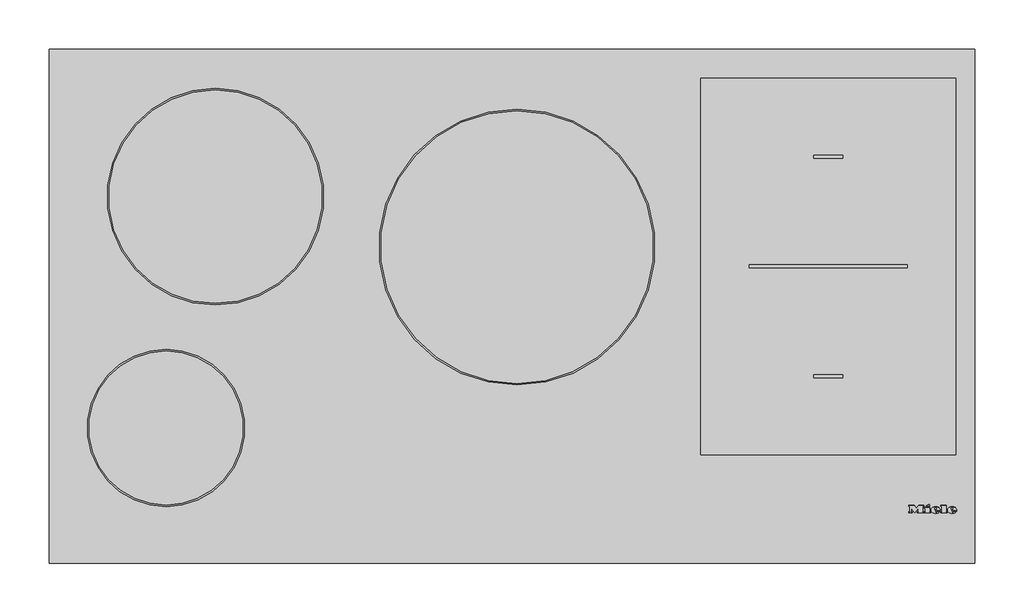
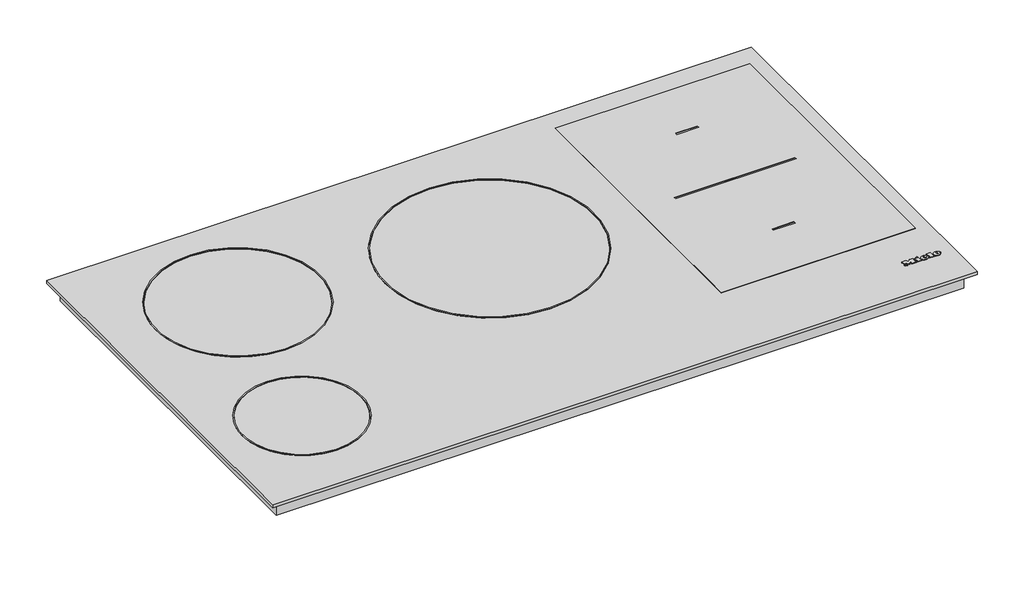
# Not in any storey: 1 proxy.
"""IFC4 building model written with IfcOpenShell, lengths in millimetres."""

import ifcopenshell
import ifcopenshell.guid

model = None  # the IFC model being written
_history = None  # IfcOwnerHistory: only IFC2X3 demands one
_inside = {}  # id of a spatial element -> (the spatial element, [elements in it])
_under = {}  # id of a project, library or spatial element -> (it, [spatial elements below it])
_declared = {}  # id of a project -> (the project, [libraries it declares])
_typed = {}  # id of a type object -> (the type object, [elements of that type])
_made_of = {}  # id of a material, layer set ... -> (it, [elements and type objects made of it])


def new_model(schema):
    """Start an empty IFC model of exactly this schema.

    Asked for "IFC4X3", IfcOpenShell would pick the latest addendum, in which some entities
    have other attributes; the version numbers below select the first issue.
    IFC2X3 requires an IfcOwnerHistory on every rooted entity: one is made here for all.
    """
    global model, _history
    if schema == "IFC4X3":
        model = ifcopenshell.file(schema_version=(4, 3, 0, 0))
    else:
        model = ifcopenshell.file(schema=schema)
    _inside.clear()
    _under.clear()
    _declared.clear()
    _typed.clear()
    _made_of.clear()
    _history = None
    if model.schema == "IFC2X3":
        org = make("IfcOrganization", Name="unknown")
        user = make(
            "IfcPersonAndOrganization",
            ThePerson=make("IfcPerson", FamilyName="unknown"),
            TheOrganization=org,
        )
        app = make(
            "IfcApplication",
            ApplicationDeveloper=org,
            Version="unknown",
            ApplicationFullName="unknown",
            ApplicationIdentifier="unknown",
        )
        _history = make(
            "IfcOwnerHistory",
            OwningUser=user,
            OwningApplication=app,
            ChangeAction="ADDED",
            CreationDate=0,
        )
    return model


def make(cls, **values):
    """One entity of the class cls with the attributes given. An attribute that is None is left unset."""
    return model.create_entity(
        cls, **{name: value for name, value in values.items() if value is not None}
    )


def rooted(cls, **values):
    """An entity with a GlobalId (a new one), such as an element, a storey or a relation."""
    return make(cls, GlobalId=ifcopenshell.guid.new(), OwnerHistory=_history, **values)


def si_unit(unit_type, name, prefix=None):
    """IfcSIUnit, for example si_unit("LENGTHUNIT", "METRE", prefix="MILLI")."""
    return make("IfcSIUnit", UnitType=unit_type, Prefix=prefix, Name=name)


def assignment(units):
    """IfcUnitAssignment: the units of a project."""
    return None if units is None else make("IfcUnitAssignment", Units=units)


def point(xyz):
    """IfcCartesianPoint."""
    return None if xyz is None else make("IfcCartesianPoint", Coordinates=xyz)


def direction(xyz):
    """IfcDirection."""
    return None if xyz is None else make("IfcDirection", DirectionRatios=xyz)


def frame(location, z_axis=None, x_axis=None):
    """IfcAxis2Placement3D, a coordinate frame: its origin and axes. An axis left out is left unset."""
    return make(
        "IfcAxis2Placement3D",
        Location=point(location),
        Axis=direction(z_axis),
        RefDirection=direction(x_axis),
    )


def frame_2d(location, x_axis=None):
    """IfcAxis2Placement2D, a coordinate frame in the plane: its origin and x axis."""
    return make(
        "IfcAxis2Placement2D", Location=point(location), RefDirection=direction(x_axis)
    )


def origin():
    """The frame at (0, 0, 0) with its axes left unset."""
    return frame((0.0, 0.0, 0.0))


def origin_with_axes():
    """The frame at (0, 0, 0) with the z axis (0, 0, 1) and the x axis (1, 0, 0) written out."""
    return frame((0.0, 0.0, 0.0), z_axis=(0.0, 0.0, 1.0), x_axis=(1.0, 0.0, 0.0))


def place(relative_to, where):
    """IfcLocalPlacement: puts the frame where relative to a parent placement (None: the world)."""
    return make(
        "IfcLocalPlacement", PlacementRelTo=relative_to, RelativePlacement=where
    )


def context(
    kind, dimensions, precision=None, world=None, true_north=None, identifier=None
):
    """IfcGeometricRepresentationContext, for example the 3D "Model" context."""
    return make(
        "IfcGeometricRepresentationContext",
        ContextIdentifier=identifier,
        ContextType=kind,
        CoordinateSpaceDimension=dimensions,
        Precision=precision,
        WorldCoordinateSystem=world,
        TrueNorth=true_north,
    )


def project(units=None, contexts=None):
    """IfcProject with its units and contexts."""
    return rooted(
        "IfcProject",
        Name="project",
        RepresentationContexts=contexts,
        UnitsInContext=assignment(units),
    )


def spatial(cls, under=None, at=None, **own):
    """A site, building, storey or space (cls), placed at a placement, below another one or the project."""
    s = rooted(cls, ObjectPlacement=at, **own)
    if under is not None:
        _under.setdefault(under.id(), (under, []))[1].append(s)
    return s


def polyline(points):
    """IfcPolyline through the points."""
    return make("IfcPolyline", Points=[point(p) for p in points])


def circle_curve(where, radius):
    """IfcCircle in the frame where."""
    return make("IfcCircle", Position=where, Radius=radius)


def ellipse_curve(where, semi_axis1, semi_axis2):
    """IfcEllipse in the frame where."""
    return make(
        "IfcEllipse", Position=where, SemiAxis1=semi_axis1, SemiAxis2=semi_axis2
    )


def trimmed(basis, trim1, trim2, sense, master):
    """IfcTrimmedCurve: the piece of a basis curve between two trims."""
    return make(
        "IfcTrimmedCurve",
        BasisCurve=basis,
        Trim1=trim1,
        Trim2=trim2,
        SenseAgreement=sense,
        MasterRepresentation=master,
    )


def segment(curve, same_sense, transition):
    """IfcCompositeCurveSegment."""
    return make(
        "IfcCompositeCurveSegment",
        Transition=transition,
        SameSense=same_sense,
        ParentCurve=curve,
    )


def composite_curve(segments, self_intersect=None):
    """IfcCompositeCurve: segments joined end to end."""
    return make("IfcCompositeCurve", Segments=segments, SelfIntersect=self_intersect)


def outline(outer, holes=None, kind="AREA"):
    """IfcArbitraryClosedProfileDef: a profile drawn as a closed curve; with holes, ...WithVoids."""
    if holes is None:
        return make("IfcArbitraryClosedProfileDef", ProfileType=kind, OuterCurve=outer)
    return make(
        "IfcArbitraryProfileDefWithVoids",
        ProfileType=kind,
        OuterCurve=outer,
        InnerCurves=holes,
    )


def extrude(swept, where, along, depth):
    """IfcExtrudedAreaSolid: the profile swept, set in the frame where, extruded along a direction by depth."""
    return make(
        "IfcExtrudedAreaSolid",
        SweptArea=swept,
        Position=where,
        ExtrudedDirection=direction(along),
        Depth=depth,
    )


def shape(context_of_items, identifier, shape_type, items):
    """IfcShapeRepresentation: the items that make up one representation, for example the "Body"."""
    return make(
        "IfcShapeRepresentation",
        ContextOfItems=context_of_items,
        RepresentationIdentifier=identifier,
        RepresentationType=shape_type,
        Items=items,
    )


def source(mapping_origin, context_of_items, identifier, shape_type, items):
    """IfcRepresentationMap: a shape defined once, which mapped items show again and again."""
    return make(
        "IfcRepresentationMap",
        MappingOrigin=mapping_origin,
        MappedRepresentation=shape(context_of_items, identifier, shape_type, items),
    )


def transform(
    local_origin,
    x_axis=None,
    y_axis=None,
    z_axis=None,
    scale=None,
    scale2=None,
    scale3=None,
    uniform=True,
):
    """IfcCartesianTransformationOperator3D, or its non-uniform kind. x_axis, y_axis, z_axis: its Axis1, 2, 3."""
    if uniform:
        return make(
            "IfcCartesianTransformationOperator3D",
            Axis1=direction(x_axis),
            Axis2=direction(y_axis),
            LocalOrigin=point(local_origin),
            Scale=scale,
            Axis3=direction(z_axis),
        )
    return make(
        "IfcCartesianTransformationOperator3DnonUniform",
        Axis1=direction(x_axis),
        Axis2=direction(y_axis),
        LocalOrigin=point(local_origin),
        Scale=scale,
        Axis3=direction(z_axis),
        Scale2=scale2,
        Scale3=scale3,
    )


def mapped(mapping_source, mapping_target):
    """IfcMappedItem: shows the shape of a source again, moved by a transform."""
    return make(
        "IfcMappedItem", MappingSource=mapping_source, MappingTarget=mapping_target
    )


def made_of(thing, what):
    """Note that an element or type object is made of a material, layer set ...; save() writes the relation."""
    if what is not None:
        _made_of.setdefault(what.id(), (what, []))[1].append(thing)
    return thing


def element(
    cls,
    number,
    at=None,
    inside=None,
    cuts=None,
    type_object=None,
    material=None,
    context=None,
    identifier="Body",
    shape_type=None,
    held_by="IfcProductDefinitionShape",
    body=None,
    shapes=None,
    **own,
):
    """One element of the class cls, such as IfcWall. Its Tag is "e" and its number.

    at: its placement. inside: the storey or other place that contains it. cuts: it is an
    opening in that element (IfcRelVoidsElement). A single representation is given by context,
    identifier, shape_type and body (its items); several are given by shapes. held_by: the class
    of the entity that holds the representations. save() writes the other relations.
    """
    e = rooted(cls, Tag="e%d" % number, ObjectPlacement=at, **own)
    if body is not None:
        shapes = [shape(context, identifier, shape_type, body)]
    if shapes is not None:
        e.Representation = make(held_by, Representations=shapes)
    if inside is not None:
        _inside.setdefault(inside.id(), (inside, []))[1].append(e)
    if cuts is not None:
        rooted(
            "IfcRelVoidsElement", RelatingBuildingElement=cuts, RelatedOpeningElement=e
        )
    if type_object is not None:
        _typed.setdefault(type_object.id(), (type_object, []))[1].append(e)
    return made_of(e, material)


def aggregate(whole, parts):
    """IfcRelAggregates: a whole, such as a stair, and the parts it consists of."""
    return rooted("IfcRelAggregates", RelatingObject=whole, RelatedObjects=parts)


def save(model, path):
    """Write the relations noted so far, then the file.

    IfcRelAggregates (storeys below a building ...), IfcRelContainedInSpatialStructure (elements
    in a storey), IfcRelDefinesByType, IfcRelAssociatesMaterial and IfcRelDeclares: one each for
    every whole, place, type object, material and project.
    """
    for whole, parts in _under.values():
        aggregate(whole, parts)
    for where, things in _inside.values():
        rooted(
            "IfcRelContainedInSpatialStructure",
            RelatedElements=things,
            RelatingStructure=where,
        )
    for kind, things in _typed.values():
        rooted("IfcRelDefinesByType", RelatedObjects=things, RelatingType=kind)
    for what, things in _made_of.values():
        rooted("IfcRelAssociatesMaterial", RelatedObjects=things, RelatingMaterial=what)
    for by, libraries in _declared.values():
        rooted("IfcRelDeclares", RelatingContext=by, RelatedDefinitions=libraries)
    model.write(path)


def plane_surface(at):
    """IfcPlane: the flat surface through the origin of the frame at, square to its z axis."""
    return make("IfcPlane", Position=at)


def cylinder_surface(at, radius):
    """IfcCylindricalSurface: all points at the distance radius from the z axis of the frame at."""
    return make("IfcCylindricalSurface", Position=at, Radius=radius)


def revolved_surface(curve, axis_point, axis_direction):
    """IfcSurfaceOfRevolution: the curve turned about the line through axis_point along axis_direction."""
    return make(
        "IfcSurfaceOfRevolution",
        SweptCurve=make("IfcArbitraryOpenProfileDef", ProfileType="CURVE", Curve=curve),
        AxisPosition=make("IfcAxis1Placement", Location=point(axis_point), Axis=direction(axis_direction)),
    )


def extruded_surface(curve, direction_of_extrusion, depth):
    """IfcSurfaceOfLinearExtrusion: the curve pushed along a direction by depth."""
    return make(
        "IfcSurfaceOfLinearExtrusion",
        SweptCurve=make("IfcArbitraryOpenProfileDef", ProfileType="CURVE", Curve=curve),
        ExtrudedDirection=direction(direction_of_extrusion),
        Depth=depth,
    )


def advanced_brep(points, edges, surfaces, faces):
    """IfcAdvancedBrep: a solid bounded by faces that lie on surfaces and meet in shared edges.

    An edge is (start, end): straight between two places in points (the first is 0);
    or (start, end, curve); or (start, end, curve, False) where it runs against its curve.
    A face is (place in surfaces, loops), or (place, loops, False) where it looks against
    its surface's normal. A loop lists edges by number (the first is 1), with a minus sign
    where the edge is run from its end to its start. The first loop is the outer one.
    """
    corners = [point(p) for p in points]
    vertices = [make("IfcVertexPoint", VertexGeometry=c) for c in corners]
    made = []
    for start, end, *more in edges:
        made.append(
            make(
                "IfcEdgeCurve",
                EdgeStart=vertices[start],
                EdgeEnd=vertices[end],
                EdgeGeometry=more[0] if more else make("IfcPolyline", Points=[corners[start], corners[end]]),
                SameSense=more[1] if len(more) > 1 else True,
            )
        )
    hull = []
    for where, loops, *sense in faces:
        bounds = []
        for j, loop in enumerate(loops):
            ring = [make("IfcOrientedEdge", EdgeElement=made[abs(k) - 1], Orientation=k > 0) for k in loop]
            bounds.append(
                make(
                    "IfcFaceOuterBound" if j == 0 else "IfcFaceBound",
                    Bound=make("IfcEdgeLoop", EdgeList=ring),
                    Orientation=True,
                )
            )
        hull.append(make("IfcAdvancedFace", Bounds=bounds, FaceSurface=surfaces[where], SameSense=sense[0] if sense else True))
    return make("IfcAdvancedBrep", Outer=make("IfcClosedShell", CfsFaces=hull))


def specialty_equipment_c3af45f5(model_context):
    return source(origin(), model_context, "Body", "SolidModel", [
        advanced_brep(
        [(444.648, 52.8948833, 4.9922537), (444.648, 53.7028828, 4.9931551), (450.0, 53.7028828, 4.9931551), (440.688, 53.7028828, 4.9931551), (442.888, 50.9988845, 4.9901386), (449.864, 52.8948833, 4.9922537), (447.448, 52.8948833, 4.9922537), (445.544, 51.9988838, 4.9912542), (444.648, 54.7268821, 4.9942974), (444.648, 55.5988816, 4.9952701), (446.016, 55.5988816, 4.9952701), (446.016, 54.7268821, 4.9942974), (444.648, 52.8959988, 3.9922543), (445.544, 51.9999994, 3.9912548), (447.448, 52.8959988, 3.9922543), (449.864, 52.8959988, 3.9922543), (442.888, 51.0, 3.9901393), (440.688, 53.7039983, 3.9931557), (450.0, 53.7039983, 3.9931557), (444.648, 53.7039983, 3.9931557), (444.648, 54.7279977, 3.994298), (446.016, 54.7279977, 3.994298), (446.016, 55.5999971, 3.9952707), (444.648, 55.5999971, 3.9952707)],
        [
            (0, 1),
            (1, 2),
            (2, 3, ellipse_curve(frame((445.344, 53.7028828, 4.9931551), z_axis=(0.0, -0.0011155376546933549, 0.9999993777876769), x_axis=(-1.0, 0.0, 0.0)), 4.656, 3.848)),
            (3, 4, circle_curve(frame((443.7840436, 53.9748826, 4.9934585), z_axis=(0.0, -0.0011155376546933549, 0.9999993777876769), x_axis=(0.0, -0.9999993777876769, -0.0011155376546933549)), 3.1079688)),
            (4, 5, circle_curve(frame((445.2507936, 56.0868813, 4.9958145), z_axis=(0.0, -0.0011155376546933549, 0.9999993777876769), x_axis=(0.0, -0.9999993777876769, -0.0011155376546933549)), 5.6098607)),
            (5, 6),
            (6, 7, circle_curve(frame((445.9350588, 53.6388828, 4.9930837), z_axis=(0.0, 0.0011155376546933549, -0.9999993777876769), x_axis=(0.0, -0.9999993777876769, -0.0011155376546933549)), 1.6859795)),
            (7, 0, circle_curve(frame((445.544, 52.8948833, 4.9922537), z_axis=(0.0, 0.0011155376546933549, -0.9999993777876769), x_axis=(0.0, -0.9999993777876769, -0.0011155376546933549)), 0.896)),
            (8, 9),
            (9, 10, circle_curve(frame((445.332, 55.5988816, 4.9952701), z_axis=(0.0, 0.0011155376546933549, -0.9999993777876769), x_axis=(0.0, -0.9999993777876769, -0.0011155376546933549)), 0.684)),
            (10, 11),
            (11, 8),
            (12, 13, circle_curve(frame((445.544, 52.8959988, 3.9922543), z_axis=(0.0, -0.0011155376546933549, 0.9999993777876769), x_axis=(0.0, -0.9999993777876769, -0.0011155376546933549)), 0.896)),
            (13, 14, circle_curve(frame((445.9350588, 53.6399984, 3.9930843), z_axis=(0.0, -0.0011155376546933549, 0.9999993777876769), x_axis=(0.0, -0.9999993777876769, -0.0011155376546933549)), 1.6859795)),
            (14, 15),
            (15, 16, circle_curve(frame((445.2507936, 56.0879968, 3.9958151), z_axis=(0.0, 0.0011155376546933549, -0.9999993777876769), x_axis=(0.0, -0.9999993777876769, -0.0011155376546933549)), 5.6098607)),
            (16, 17, circle_curve(frame((443.7840436, 53.9759981, 3.9934591), z_axis=(0.0, 0.0011155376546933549, -0.9999993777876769), x_axis=(0.0, -0.9999993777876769, -0.0011155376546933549)), 3.1079688)),
            (17, 18, ellipse_curve(frame((445.344, 53.7039983, 3.9931557), z_axis=(0.0, 0.0011155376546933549, -0.9999993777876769), x_axis=(-1.0, 0.0, 0.0)), 4.656, 3.848)),
            (18, 19),
            (19, 12),
            (20, 21),
            (21, 22),
            (22, 23, circle_curve(frame((445.332, 55.5999971, 3.9952707), z_axis=(0.0, -0.0011155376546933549, 0.9999993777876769), x_axis=(0.0, -0.9999993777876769, -0.0011155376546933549)), 0.684)),
            (23, 20),
            (0, 12),
            (19, 1),
            (18, 2),
            (5, 15),
            (14, 6),
            (17, 3),
            (13, 7),
            (16, 4),
            (8, 20),
            (23, 9),
            (22, 10),
            (21, 11),
        ],
        [
            plane_surface(frame((444.648, 53.7028828, 4.9931551), z_axis=(0.0, -0.0011155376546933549, 0.9999993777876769), x_axis=(0.0, 0.9999993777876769, 0.0011155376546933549))),
            plane_surface(frame((444.648, 53.7039983, 3.9931557), z_axis=(0.0, 0.0011155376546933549, -0.9999993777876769), x_axis=(0.0, -0.9999993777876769, -0.0011155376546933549))),
            plane_surface(frame((444.648, 52.8948833, 4.9922537), z_axis=(1.0000000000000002, 0.0, 0.0), x_axis=(0.0, 0.001115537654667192, -0.999999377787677))),
            plane_surface(frame((444.648, 53.7028828, 4.9931551), z_axis=(0.0, -0.999999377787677, -0.001115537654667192), x_axis=(0.0, 0.001115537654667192, -0.999999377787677))),
            plane_surface(frame((449.864, 52.8948833, 4.9922537), z_axis=(0.0, 0.999999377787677, 0.001115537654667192), x_axis=(0.0, 0.001115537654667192, -0.999999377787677))),
            extruded_surface(trimmed(ellipse_curve(frame((445.344, 53.7051139, 2.9931563), z_axis=(0.0, -0.0011155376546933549, 0.9999993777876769), x_axis=(-1.0, 0.0, 0.0)), 4.656, 3.848), [point((450.0, 53.7051139, 2.9931563))], [point((440.688, 53.7051139, 2.9931563))], True, "CARTESIAN"), (0.0, -0.001115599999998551, 0.9999994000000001), 1.00000002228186),
            revolved_surface(polyline([(445.9350588, 51.954019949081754, 3.991203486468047), (445.9350588, 51.95290441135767, 4.99120292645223)]), (445.9350588, 53.6399984, 3.9930843), (0.0, 0.0011155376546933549, -0.9999993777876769)),
            revolved_surface(polyline([(445.544, 51.99999935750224, 3.9912547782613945), (445.544, 51.99888381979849, 4.991254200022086)]), (445.544, 52.8959988, 3.9922543), (0.0, 0.0011155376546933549, -0.9999993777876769)),
            cylinder_surface(frame((443.7840436, 53.9759981, 3.9934591), z_axis=(0.0, -0.0011155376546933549, 0.9999993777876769), x_axis=(0.0, -0.9999993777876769, -0.0011155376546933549)), 3.1079688),
            cylinder_surface(frame((445.2507936, 56.0879968, 3.9958151), z_axis=(0.0, -0.0011155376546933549, 0.9999993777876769), x_axis=(0.0, -0.9999993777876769, -0.0011155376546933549)), 5.6098607),
            plane_surface(frame((444.648, 54.7268821, 4.9942974), z_axis=(1.0000000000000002, 0.0, 0.0), x_axis=(0.0, 0.001115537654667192, -0.999999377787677))),
            revolved_surface(polyline([(445.332, 54.915997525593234, 3.9945076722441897), (445.332, 54.91488198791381, 4.994507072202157)]), (445.332, 55.5999971, 3.9952707), (0.0, 0.0011155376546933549, -0.9999993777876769)),
            plane_surface(frame((446.016, 55.5988816, 4.9952701), z_axis=(-1.0000000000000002, 0.0, 0.0), x_axis=(0.0, 0.001115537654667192, -0.999999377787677))),
            plane_surface(frame((446.016, 54.7268821, 4.9942974), z_axis=(0.0, 0.999999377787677, 0.001115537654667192), x_axis=(0.0, 0.001115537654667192, -0.999999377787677))),
        ],
        [
            (0, [[1, 2, 3, 4, 5, 6, 7, 8], [9, 10, 11, 12]]),
            (1, [[13, 14, 15, 16, 17, 18, 19, 20], [21, 22, 23, 24]]),
            (2, [[-1, 25, -20, 26]]),
            (3, [[-2, -26, -19, 27]]),
            (4, [[-6, 28, -15, 29]]),
            (5, [[-3, -27, -18, 30]]),
            (6, [[-7, -29, -14, 31]]),
            (7, [[-8, -31, -13, -25]]),
            (8, [[-4, -30, -17, 32]]),
            (9, [[-5, -32, -16, -28]]),
            (10, [[-9, 33, -24, 34]]),
            (11, [[-10, -34, -23, 35]]),
            (12, [[-11, -35, -22, 36]]),
            (13, [[-12, -36, -21, -33]]),
        ],
    ),
        advanced_brep(
        [(427.952, 52.8948833, 4.9922537), (427.952, 53.7028828, 4.9931551), (433.304, 53.7028828, 4.9931551), (423.992, 53.7028828, 4.9931551), (426.192, 50.9988845, 4.9901386), (433.168, 52.8948833, 4.9922537), (430.752, 52.8948833, 4.9922537), (428.848, 51.9988838, 4.9912542), (427.952, 54.7268821, 4.9942974), (427.952, 55.5988816, 4.9952701), (429.32, 55.5988816, 4.9952701), (429.32, 54.7268821, 4.9942974), (427.952, 52.8959988, 3.9922543), (428.848, 51.9999994, 3.9912548), (430.752, 52.8959988, 3.9922543), (433.168, 52.8959988, 3.9922543), (426.192, 51.0, 3.9901393), (423.992, 53.7039983, 3.9931557), (433.304, 53.7039983, 3.9931557), (427.952, 53.7039983, 3.9931557), (427.952, 54.7279977, 3.994298), (429.32, 54.7279977, 3.994298), (429.32, 55.5999971, 3.9952707), (427.952, 55.5999971, 3.9952707)],
        [
            (0, 1),
            (1, 2),
            (2, 3, ellipse_curve(frame((428.648, 53.7028828, 4.9931551), z_axis=(0.0, -0.0011155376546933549, 0.9999993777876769), x_axis=(-1.0, 0.0, 0.0)), 4.656, 3.848)),
            (3, 4, circle_curve(frame((427.0880436, 53.9748826, 4.9934585), z_axis=(0.0, -0.0011155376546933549, 0.9999993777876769), x_axis=(0.0, -0.9999993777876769, -0.0011155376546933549)), 3.1079688)),
            (4, 5, circle_curve(frame((428.5547936, 56.0868813, 4.9958145), z_axis=(0.0, -0.0011155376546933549, 0.9999993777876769), x_axis=(0.0, -0.9999993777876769, -0.0011155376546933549)), 5.6098607)),
            (5, 6),
            (6, 7, circle_curve(frame((429.2390588, 53.6388828, 4.9930837), z_axis=(0.0, 0.0011155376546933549, -0.9999993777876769), x_axis=(0.0, -0.9999993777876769, -0.0011155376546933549)), 1.6859795)),
            (7, 0, circle_curve(frame((428.848, 52.8948833, 4.9922537), z_axis=(0.0, 0.0011155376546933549, -0.9999993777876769), x_axis=(0.0, -0.9999993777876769, -0.0011155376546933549)), 0.896)),
            (8, 9),
            (9, 10, circle_curve(frame((428.636, 55.5988816, 4.9952701), z_axis=(0.0, 0.0011155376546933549, -0.9999993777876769), x_axis=(0.0, -0.9999993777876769, -0.0011155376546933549)), 0.684)),
            (10, 11),
            (11, 8),
            (12, 13, circle_curve(frame((428.848, 52.8959988, 3.9922543), z_axis=(0.0, -0.0011155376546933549, 0.9999993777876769), x_axis=(0.0, -0.9999993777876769, -0.0011155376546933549)), 0.896)),
            (13, 14, circle_curve(frame((429.2390588, 53.6399984, 3.9930843), z_axis=(0.0, -0.0011155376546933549, 0.9999993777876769), x_axis=(0.0, -0.9999993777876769, -0.0011155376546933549)), 1.6859795)),
            (14, 15),
            (15, 16, circle_curve(frame((428.5547936, 56.0879968, 3.9958151), z_axis=(0.0, 0.0011155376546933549, -0.9999993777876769), x_axis=(0.0, -0.9999993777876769, -0.0011155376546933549)), 5.6098607)),
            (16, 17, circle_curve(frame((427.0880436, 53.9759981, 3.9934591), z_axis=(0.0, 0.0011155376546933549, -0.9999993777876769), x_axis=(0.0, -0.9999993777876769, -0.0011155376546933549)), 3.1079688)),
            (17, 18, ellipse_curve(frame((428.648, 53.7039983, 3.9931557), z_axis=(0.0, 0.0011155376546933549, -0.9999993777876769), x_axis=(-1.0, 0.0, 0.0)), 4.656, 3.848)),
            (18, 19),
            (19, 12),
            (20, 21),
            (21, 22),
            (22, 23, circle_curve(frame((428.636, 55.5999971, 3.9952707), z_axis=(0.0, -0.0011155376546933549, 0.9999993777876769), x_axis=(0.0, -0.9999993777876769, -0.0011155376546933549)), 0.684)),
            (23, 20),
            (0, 12),
            (19, 1),
            (18, 2),
            (5, 15),
            (14, 6),
            (17, 3),
            (13, 7),
            (16, 4),
            (8, 20),
            (23, 9),
            (22, 10),
            (21, 11),
        ],
        [
            plane_surface(frame((427.952, 53.7028828, 4.9931551), z_axis=(0.0, -0.0011155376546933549, 0.9999993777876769), x_axis=(0.0, 0.9999993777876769, 0.0011155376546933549))),
            plane_surface(frame((427.952, 53.7039983, 3.9931557), z_axis=(0.0, 0.0011155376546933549, -0.9999993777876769), x_axis=(0.0, -0.9999993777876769, -0.0011155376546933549))),
            plane_surface(frame((427.952, 52.8948833, 4.9922537), z_axis=(1.0000000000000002, 0.0, 0.0), x_axis=(0.0, 0.001115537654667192, -0.999999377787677))),
            plane_surface(frame((427.952, 53.7028828, 4.9931551), z_axis=(0.0, -0.999999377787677, -0.001115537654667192), x_axis=(0.0, 0.001115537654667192, -0.999999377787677))),
            plane_surface(frame((433.168, 52.8948833, 4.9922537), z_axis=(0.0, 0.999999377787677, 0.001115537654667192), x_axis=(0.0, 0.001115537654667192, -0.999999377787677))),
            extruded_surface(trimmed(ellipse_curve(frame((428.648, 53.7051139, 2.9931563), z_axis=(0.0, -0.0011155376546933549, 0.9999993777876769), x_axis=(-1.0, 0.0, 0.0)), 4.656, 3.848), [point((433.304, 53.7051139, 2.9931563))], [point((423.992, 53.7051139, 2.9931563))], True, "CARTESIAN"), (0.0, -0.001115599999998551, 0.9999994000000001), 1.00000002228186),
            revolved_surface(polyline([(429.2390588, 51.954019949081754, 3.991203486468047), (429.2390588, 51.95290441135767, 4.99120292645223)]), (429.2390588, 53.6399984, 3.9930843), (0.0, 0.0011155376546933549, -0.9999993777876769)),
            revolved_surface(polyline([(428.848, 51.99999935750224, 3.9912547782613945), (428.848, 51.99888381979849, 4.991254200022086)]), (428.848, 52.8959988, 3.9922543), (0.0, 0.0011155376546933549, -0.9999993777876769)),
            cylinder_surface(frame((427.0880436, 53.9759981, 3.9934591), z_axis=(0.0, -0.0011155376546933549, 0.9999993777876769), x_axis=(0.0, -0.9999993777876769, -0.0011155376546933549)), 3.1079688),
            cylinder_surface(frame((428.5547936, 56.0879968, 3.9958151), z_axis=(0.0, -0.0011155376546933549, 0.9999993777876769), x_axis=(0.0, -0.9999993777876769, -0.0011155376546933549)), 5.6098607),
            plane_surface(frame((427.952, 54.7268821, 4.9942974), z_axis=(1.0000000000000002, 0.0, 0.0), x_axis=(0.0, 0.001115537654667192, -0.999999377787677))),
            revolved_surface(polyline([(428.636, 54.915997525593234, 3.9945076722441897), (428.636, 54.91488198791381, 4.994507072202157)]), (428.636, 55.5999971, 3.9952707), (0.0, 0.0011155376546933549, -0.9999993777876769)),
            plane_surface(frame((429.32, 55.5988816, 4.9952701), z_axis=(-1.0000000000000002, 0.0, 0.0), x_axis=(0.0, 0.001115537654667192, -0.999999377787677))),
            plane_surface(frame((429.32, 54.7268821, 4.9942974), z_axis=(0.0, 0.999999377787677, 0.001115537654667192), x_axis=(0.0, 0.001115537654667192, -0.999999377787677))),
        ],
        [
            (0, [[1, 2, 3, 4, 5, 6, 7, 8], [9, 10, 11, 12]]),
            (1, [[13, 14, 15, 16, 17, 18, 19, 20], [21, 22, 23, 24]]),
            (2, [[-1, 25, -20, 26]]),
            (3, [[-2, -26, -19, 27]]),
            (4, [[-6, 28, -15, 29]]),
            (5, [[-3, -27, -18, 30]]),
            (6, [[-7, -29, -14, 31]]),
            (7, [[-8, -31, -13, -25]]),
            (8, [[-4, -30, -17, 32]]),
            (9, [[-5, -32, -16, -28]]),
            (10, [[-9, 33, -24, 34]]),
            (11, [[-10, -34, -23, 35]]),
            (12, [[-11, -35, -22, 36]]),
            (13, [[-12, -36, -21, -33]]),
        ],
    ),
        extrude(outline(polyline([(0.0, 0.0), (-0.0109086, -2.9993294), (-1.4390415, -2.9920868), (-1.4315307, 0.0), (0.0, 0.0)])), frame((419.208, 58.5279953, 3.998537), z_axis=(0.0, -0.001115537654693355, 0.999999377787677), x_axis=(-0.4247202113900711, 0.9053240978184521, 0.0010099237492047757)), (0.0, 0.0, 1.0), 1.0),
        extrude(outline(polyline([(-0.4933908, 2.4141097), (-2.7800844, -2.4601583), (-7.0459741, -0.4588767), (-7.4401145, -1.299018), (-8.6568709, -0.728194), (-5.9760369, 4.9862153), (-4.7592805, 4.4153913), (-5.1636142, 3.5535222), (-2.1941493, 2.1604399), (-1.7898157, 3.022309), (-0.4933908, 2.4141097)])), frame((419.208, 58.5279953, 3.998537), z_axis=(0.0, -0.001115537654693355, 0.999999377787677), x_axis=(-0.4247202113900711, 0.9053240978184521, 0.0010099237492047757)), (0.0, 0.0, 1.0), 1.0),
        extrude(outline(polyline([(0.0, 0.0), (0.0, -1.304), (-5.504, -1.304), (-5.504, 5.3519999), (-6.488, 5.3519999), (-6.488, 6.696), (0.0, 6.696), (0.0, 5.3519999), (-0.96, 5.3519999), (-0.96, 0.0), (0.0, 0.0)])), frame((433.752, 57.6959958, 3.9976089), z_axis=(0.0, -0.0011155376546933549, 0.9999993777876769), x_axis=(-1.0, 0.0, 0.0)), (0.0, 0.0, 1.0), 1.0),
        extrude(outline(polyline([(0.0, 0.0), (0.0, -1.304), (-5.576, -1.304), (-7.92, 1.696), (-10.256, -1.304), (-15.128, -1.304), (-15.128, 0.0), (-14.112, 0.0), (-14.112, 5.3519999), (-15.128, 5.3519999), (-15.128, 6.696), (-8.744, 6.696), (-8.744, 5.3519999), (-9.728, 5.3519999), (-9.728, 1.8807777), (-6.136, 6.696), (-2.56, 1.9488752), (-2.56, 5.3519999), (-3.52, 5.3519999), (-3.52, 6.696), (0.0, 6.696), (0.0, 5.3519999), (-0.968, 5.3519999), (-0.968, 0.0), (0.0, 0.0)])), frame((401.288, 57.6959958, 3.9976089), z_axis=(0.0, -0.0011155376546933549, 0.9999993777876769), x_axis=(-1.0, 0.0, 0.0)), (0.0, 0.0, 1.0), 1.0),
        extrude(outline(polyline([(290.3772603, 428.0), (283.0, 428.0), (283.0, 429.2557039), (289.1215564, 429.2557039), (289.1215564, 432.5519266), (283.470889, 432.5519266), (283.470889, 433.8076304), (289.1215564, 433.8076304), (289.1215564, 436.7899271), (283.156963, 436.7899271), (283.156963, 438.045631), (290.3772603, 438.045631), (290.3772603, 428.0)])), frame((0.0, 0.0, -78.0), z_axis=(0.0, 0.0, 1.0), x_axis=(1.0, 0.0, 0.0)), (0.0, 0.0, 1.0), 1.0),
        extrude(outline(polyline([(281.1164442, 428.0), (274.8379248, 428.0), (274.8379248, 429.2557039), (279.8607403, 429.2557039), (279.8607403, 438.045631), (281.1164442, 438.045631), (281.1164442, 428.0)])), frame((0.0, 0.0, -78.0), z_axis=(0.0, 0.0, 1.0), x_axis=(1.0, 0.0, 0.0)), (0.0, 0.0, 1.0), 1.0),
        extrude(outline(polyline([(468.0, 520.0), (468.0, 0.0), (-468.0, 0.0), (-468.0, 520.0), (468.0, 520.0)])), origin_with_axes(), (0.0, 0.0, 1.0), 4.0),
        extrude(outline(polyline([(456.5, 508.5), (456.5, 11.5), (-456.5, 11.5), (-456.5, 508.5), (456.5, 508.5)])), frame((0.0, 0.0, -22.0), z_axis=(0.0, 0.0, 1.0), x_axis=(1.0, 0.0, 0.0)), (0.0, 0.0, 1.0), 22.0),
        extrude(outline(composite_curve([segment(trimmed(circle_curve(frame_2d((5.0, 320.0)), 139.5), [point((5.0, 459.5))], [point((5.0, 180.5))], False, "CARTESIAN"), True, "CONTINUOUS"), segment(trimmed(circle_curve(frame_2d((5.0, 320.0)), 139.5), [point((5.0, 180.5))], [point((5.0, 459.5))], False, "CARTESIAN"), True, "CONTINUOUS")], self_intersect=False), holes=[composite_curve([segment(trimmed(circle_curve(frame_2d((5.0, 320.0)), 138.0), [point((5.0, 458.0))], [point((5.0, 182.0))], True, "CARTESIAN"), True, "CONTINUOUS"), segment(trimmed(circle_curve(frame_2d((5.0, 320.0)), 138.0), [point((5.0, 182.0))], [point((5.0, 458.0))], True, "CARTESIAN"), True, "CONTINUOUS")], self_intersect=False)]), frame((0.0, 0.0, 4.0), z_axis=(0.0, 0.0, 1.0), x_axis=(1.0, 0.0, 0.0)), (0.0, 0.0, 1.0), 1.0),
        extrude(outline(composite_curve([segment(trimmed(circle_curve(frame_2d((-300.0, 371.0)), 109.5), [point((-300.0, 480.5))], [point((-300.0, 261.5))], False, "CARTESIAN"), True, "CONTINUOUS"), segment(trimmed(circle_curve(frame_2d((-300.0, 371.0)), 109.5), [point((-300.0, 261.5))], [point((-300.0, 480.5))], False, "CARTESIAN"), True, "CONTINUOUS")], self_intersect=False), holes=[composite_curve([segment(trimmed(circle_curve(frame_2d((-300.0, 371.0)), 108.0), [point((-300.0, 479.0))], [point((-300.0, 263.0))], True, "CARTESIAN"), True, "CONTINUOUS"), segment(trimmed(circle_curve(frame_2d((-300.0, 371.0)), 108.0), [point((-300.0, 263.0))], [point((-300.0, 479.0))], True, "CARTESIAN"), True, "CONTINUOUS")], self_intersect=False)]), frame((0.0, 0.0, 4.0), z_axis=(0.0, 0.0, 1.0), x_axis=(1.0, 0.0, 0.0)), (0.0, 0.0, 1.0), 1.0),
        extrude(outline(composite_curve([segment(trimmed(circle_curve(frame_2d((-350.0, 137.0)), 79.5), [point((-350.0, 216.5))], [point((-350.0, 57.5))], False, "CARTESIAN"), True, "CONTINUOUS"), segment(trimmed(circle_curve(frame_2d((-350.0, 137.0)), 79.5), [point((-350.0, 57.5))], [point((-350.0, 216.5))], False, "CARTESIAN"), True, "CONTINUOUS")], self_intersect=False), holes=[composite_curve([segment(trimmed(circle_curve(frame_2d((-350.0, 137.0)), 78.0), [point((-350.0, 215.0))], [point((-350.0, 59.0))], True, "CARTESIAN"), True, "CONTINUOUS"), segment(trimmed(circle_curve(frame_2d((-350.0, 137.0)), 78.0), [point((-350.0, 59.0))], [point((-350.0, 215.0))], True, "CARTESIAN"), True, "CONTINUOUS")], self_intersect=False)]), frame((0.0, 0.0, 4.0), z_axis=(0.0, 0.0, 1.0), x_axis=(1.0, 0.0, 0.0)), (0.0, 0.0, 1.0), 1.0),
        extrude(outline(polyline([(449.0, 491.0), (449.0, 110.0), (191.0, 110.0), (191.0, 491.0), (449.0, 491.0)]), holes=[polyline([(334.5, 413.0), (305.5, 413.0), (305.5, 410.0), (334.5, 410.0), (334.5, 413.0)]), polyline([(400.0, 299.0), (400.0, 302.0), (240.0, 302.0), (240.0, 299.0), (400.0, 299.0)]), polyline([(334.5, 191.0), (305.5, 191.0), (305.5, 188.0), (334.5, 188.0), (334.5, 191.0)])]), frame((0.0, 0.0, 4.0), z_axis=(0.0, 0.0, 1.0), x_axis=(1.0, 0.0, 0.0)), (0.0, 0.0, 1.0), 1.0),
        extrude(outline(composite_curve([segment(trimmed(circle_curve(frame_2d((283.0, 433.0)), 7.5), [point((283.0, 440.5))], [point((283.0, 425.5))], False, "CARTESIAN"), True, "CONTINUOUS"), segment(trimmed(circle_curve(frame_2d((283.0, 433.0)), 7.5), [point((283.0, 425.5))], [point((283.0, 440.5))], False, "CARTESIAN"), True, "CONTINUOUS")], self_intersect=False)), frame((0.0, 0.0, -77.0), z_axis=(0.0, 0.0, 1.0), x_axis=(1.0, 0.0, 0.0)), (0.0, 0.0, 1.0), 30.0),
        extrude(outline(polyline([(361.0, 467.0), (361.0, 96.0), (-361.0, 96.0), (-361.0, 467.0), (361.0, 467.0)])), frame((0.0, 0.0, -47.0), z_axis=(0.0, 0.0, 1.0), x_axis=(1.0, 0.0, 0.0)), (0.0, 0.0, 1.0), 25.0),
    ])


model = new_model("IFC4")

# Units and contexts
model_context = context("Model", 3, world=origin())
ifc_project = project(units=[si_unit("LENGTHUNIT", "METRE", prefix="MILLI")], contexts=[model_context])

# Site, building
site = spatial("IfcSite", under=ifc_project)
building = spatial("IfcBuilding", under=site)

# Proxy
placement = place(None, origin())
specialty_equipment_shape = specialty_equipment_c3af45f5(model_context)
element("IfcBuildingElementProxy", 1, Name="11506360_D_KM7899FL : 26789970_D_11506360_KM7899FL", ObjectType="11506360_D_KM7899FL : 26789970_D_11506360_KM7899FL", at=placement, inside=building, context=model_context, shape_type="MappedRepresentation", body=[
    mapped(specialty_equipment_shape, transform((0.0, 0.0, 0.0), x_axis=(1.0, 0.0, 0.0), y_axis=(0.0, 1.0, 0.0), z_axis=(0.0, 0.0, 1.0))),
])

save(model, "model.ifc")
